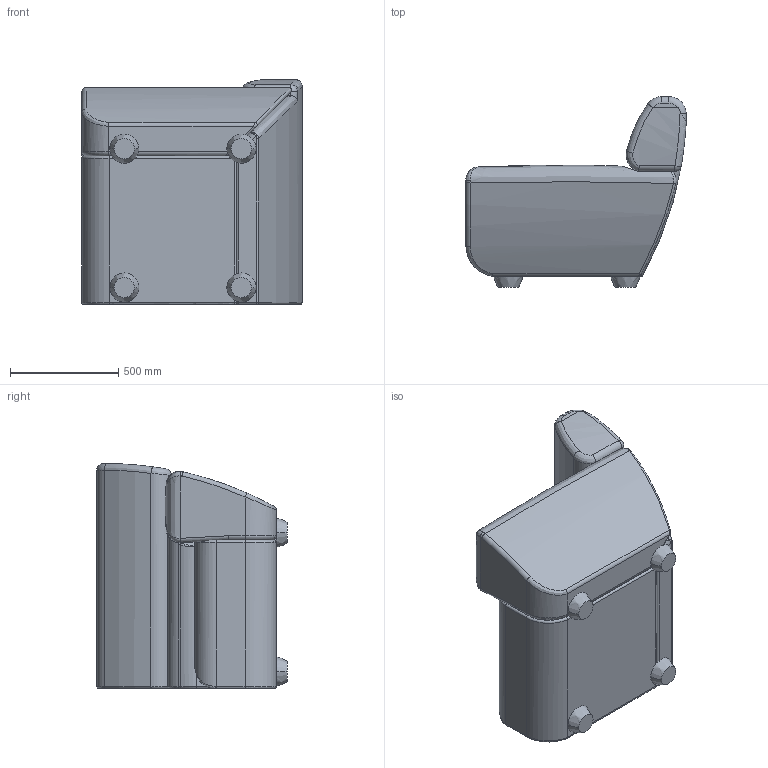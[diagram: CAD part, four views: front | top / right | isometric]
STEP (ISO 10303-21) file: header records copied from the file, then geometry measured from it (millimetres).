
FILE_DESCRIPTION(/* description */ (''),/* implementation_level */ '2;1');
FILE_NAME(/* name */ 'S:\DRAWINGS\DRAWING OFFICE ONLY\WIP\1298 Snug with Arm\1SG-0002-01 Snug with Left Arm\Marketing and Sales Files\Simplified STEP\1SG-0002 Snug with Left Arm (Simplify).stp',/* time_stamp */ '2025-08-14T11:08:44+01:00',/* author */ ('Mark.Glazzard'),/* organization */ (''),/* preprocessor_version */ 'ST-DEVELOPER v18.1',/* originating_system */ 'Autodesk Inventor 2022',/* authorisation */ '');
FILE_SCHEMA (('AUTOMOTIVE_DESIGN { 1 0 10303 214 3 1 1 }'));
Length unit declared in the file: inch
Products named in the file (1): 1SG-0002 Snug with Left Arm (Simplify)
Bounding box: 1015.68 x 878.13 x 1036.74 mm (x, y, z)
Volume: 445205443.5 mm3; surface area: 5659640.9 mm2
Topology: 7 solids, 7 shells, 145 faces, 325 edges, 182 vertices
Faces by surface type: bspline 56, cylinder 42, plane 31, torus 13, sphere 3
Entity records: 10627 total; most frequent: CARTESIAN_POINT 7602, ORIENTED_EDGE 626, DIRECTION 516, EDGE_CURVE 313, AXIS2_PLACEMENT_3D 210, VERTEX_POINT 182, STYLED_ITEM 152, FACE_OUTER_BOUND 145
